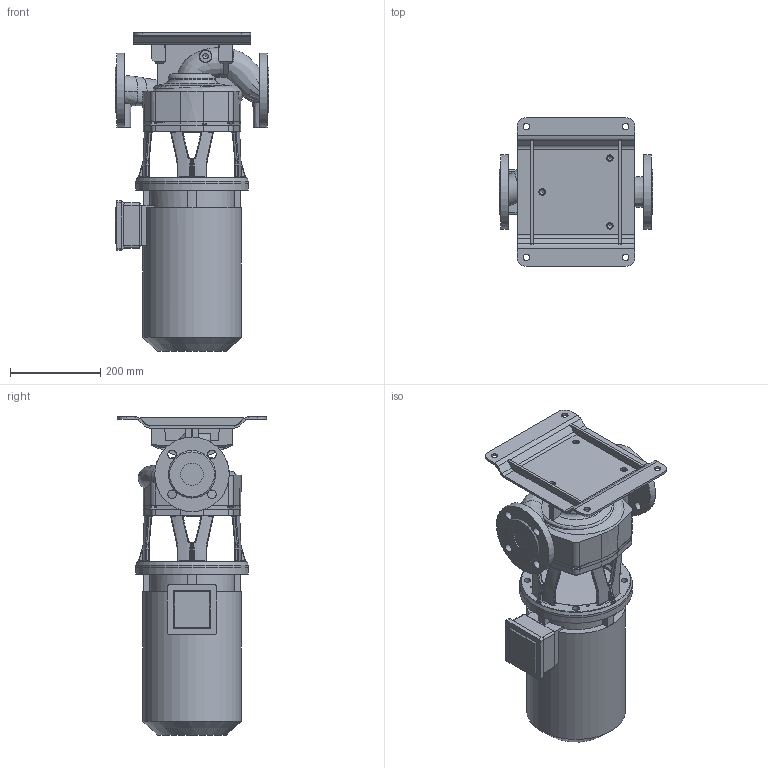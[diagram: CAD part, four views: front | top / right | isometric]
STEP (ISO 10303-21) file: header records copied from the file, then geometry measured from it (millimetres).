
FILE_DESCRIPTION (( 'STEP AP203' ), '1' );
FILE_NAME ('KI50-145_2_4kW.STEP', '2024-07-26T07:56:50', ( '' ), ( '' ), 'SwSTEP 2.0', 'SolidWorks 2023', '' );
FILE_SCHEMA (( 'CONFIG_CONTROL_DESIGN' ));
Length unit declared in the file: millimetre
Products named in the file (8): KI50-145_2_4kW; 220495; 230034; 230401; 230497; 230031; 480130_solid; 230033
Assembly tree (8 placements, depth 3):
  KI50-145_2_4kW
    230034
      230031
      230033  x2
    230497
    220495
    230401
    480130_solid
Bounding box: 340 x 330.18 x 705.35 mm (x, y, z)
Volume: 21650454.6 mm3; surface area: 1207927.9 mm2
Topology: 7 solids, 7 shells, 881 faces, 2266 edges, 1363 vertices
Faces by surface type: cylinder 273, plane 267, bspline 192, torus 82, cone 53, sphere 14
Full cylindrical faces by diameter (mm): 5 x4, 6 x3, 6.8 x4, 7 x8, 10.2 x7, 11.8 x4, 14 x4, 14.5 x7, 15 x8, 19 x8, 50 x2, 147 x1, 151 x1, 165 x2, 180 x1, 189 x1, 219 x1, 250 x2
Entity records: 42102 total; most frequent: CARTESIAN_POINT 22310, ORIENTED_EDGE 4116, DIRECTION 3656, EDGE_CURVE 2058, AXIS2_PLACEMENT_3D 1454, VERTEX_POINT 1295, EDGE_LOOP 1069, FACE_OUTER_BOUND 943
